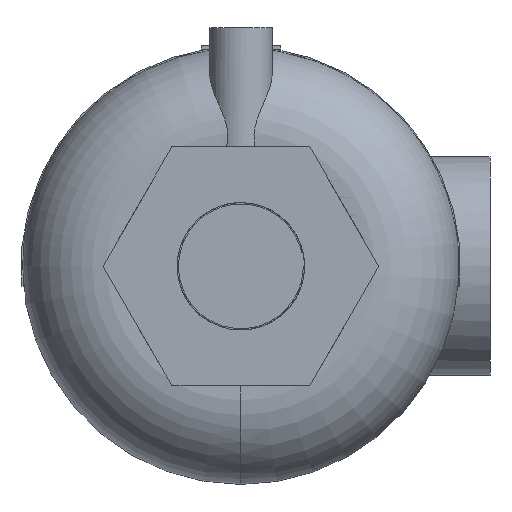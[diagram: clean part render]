
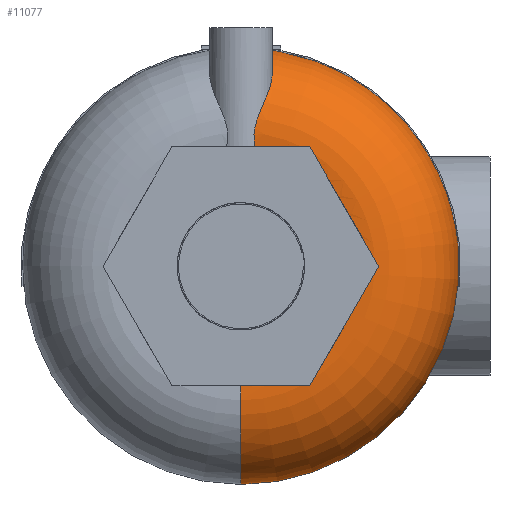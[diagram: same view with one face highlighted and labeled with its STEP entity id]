
A CAD part, front view. The second image highlights one B-rep face of the part: STEP entity #11077.
In plain terms, the highlighted toroidal (fillet/blend) face has major radius 41.696 mm and minor radius 27.94 mm.
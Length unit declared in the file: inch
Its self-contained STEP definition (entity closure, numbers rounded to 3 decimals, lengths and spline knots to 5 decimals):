
#215 = CARTESIAN_POINT ( 'NONE',  ( 0., 2.05, -1.5 ) ) ;
#357 = TOROIDAL_SURFACE ( 'NONE', #9999, 1.64157, 1.1 ) ;
#531 = DIRECTION ( 'NONE',  ( 0., -1., 0. ) ) ;
#667 = CARTESIAN_POINT ( 'NONE',  ( 0.35437, 2.57631, 2.56164 ) ) ;
#671 = DIRECTION ( 'NONE',  ( -1., 0., 0. ) ) ;
#689 = CARTESIAN_POINT ( 'NONE',  ( 0.32056, 2.16888, 2.13313 ) ) ;
#806 = EDGE_CURVE ( 'NONE', #9179, #14597, #4624, .T. ) ;
#1005 = ORIENTED_EDGE ( 'NONE', *, *, #5076, .T. ) ;
#1555 = DIRECTION ( 'NONE',  ( 0., -1., 0. ) ) ;
#1694 = CARTESIAN_POINT ( 'NONE',  ( 0.1831, 2.05, 1.48878 ) ) ;
#1800 = CARTESIAN_POINT ( 'NONE',  ( 0.33538, 2.60906, 2.58289 ) ) ;
#1981 = CARTESIAN_POINT ( 'NONE',  ( 0.37657, 2.27703, 2.29338 ) ) ;
#2025 = CIRCLE ( 'NONE', #13055, 1.1 ) ;
#2440 = CARTESIAN_POINT ( 'NONE',  ( 0.395, 2.4, 2.42269 ) ) ;
#2763 = CARTESIAN_POINT ( 'NONE',  ( 0., 3.3, -2.73 ) ) ;
#2929 = DIRECTION ( 'NONE',  ( 1., 0., 0. ) ) ;
#3101 = CARTESIAN_POINT ( 'NONE',  ( 0.32843, 2.61982, 2.58969 ) ) ;
#3261 = CARTESIAN_POINT ( 'NONE',  ( 0.0717, 2.7887, 2.68277 ) ) ;
#3364 = CARTESIAN_POINT ( 'NONE',  ( 0.249, 2.09258, 1.96201 ) ) ;
#3456 = CARTESIAN_POINT ( 'NONE',  ( 0.38727, 2.32079, 2.34327 ) ) ;
#3516 = CARTESIAN_POINT ( 'NONE',  ( 0.395, 2.4, 2.42269 ) ) ;
#4560 = CARTESIAN_POINT ( 'NONE',  ( 0.25895, 2.69858, 2.63613 ) ) ;
#4624 = B_SPLINE_CURVE_WITH_KNOTS ( 'NONE', 3,
 ( #7243, #12604, #8536, #13821, #3456, #1981, #7326, #9834, #12528, #8623, #689, #11207, #8707, #3364, #6035, #16570, #4739, #9998, #12680, #16411, #7049, #15081, #14833, #11176, #11011, #1694 ),
 .UNSPECIFIED., .F., .F.,
 ( 4, 2, 2, 2, 2, 2, 2, 2, 2, 2, 2, 2, 4 ),
 ( 0.09406, 0.09577, 0.09748, 0.10089, 0.1026, 0.10431, 0.10773, 0.11115, 0.11285, 0.11456, 0.11627, 0.11798, 0.1214 ),
 .UNSPECIFIED. ) ;
#4637 = CARTESIAN_POINT ( 'NONE',  ( 0.3803, 2.50937, 2.51408 ) ) ;
#4739 = CARTESIAN_POINT ( 'NONE',  ( 0.20261, 2.06083, 1.84035 ) ) ;
#5076 = EDGE_CURVE ( 'NONE', #17029, #9179, #10098, .T. ) ;
#5783 = ORIENTED_EDGE ( 'NONE', *, *, #16841, .T. ) ;
#5850 = CARTESIAN_POINT ( 'NONE',  ( 0.19195, 2.74639, 2.66171 ) ) ;
#5938 = CARTESIAN_POINT ( 'NONE',  ( 0.30538, 2.65088, 2.60869 ) ) ;
#6035 = CARTESIAN_POINT ( 'NONE',  ( 0.23259, 2.08023, 1.92249 ) ) ;
#6105 = CIRCLE ( 'NONE', #12727, 1.5 ) ;
#6435 = ORIENTED_EDGE ( 'NONE', *, *, #806, .T. ) ;
#6983 = ORIENTED_EDGE ( 'NONE', *, *, #13843, .F. ) ;
#7011 = CIRCLE ( 'NONE', #16927, 2.73 ) ;
#7017 = CARTESIAN_POINT ( 'NONE',  ( 0., 3.3, 0. ) ) ;
#7049 = CARTESIAN_POINT ( 'NONE',  ( 0.16989, 2.04339, 1.71114 ) ) ;
#7134 = CARTESIAN_POINT ( 'NONE',  ( 0.05739, 2.79108, 2.68391 ) ) ;
#7243 = CARTESIAN_POINT ( 'NONE',  ( 0.395, 2.4, 2.42269 ) ) ;
#7305 = CARTESIAN_POINT ( 'NONE',  ( 0.39334, 2.44255, 2.46073 ) ) ;
#7326 = CARTESIAN_POINT ( 'NONE',  ( 0.36653, 2.25024, 2.25916 ) ) ;
#7980 = CARTESIAN_POINT ( 'NONE',  ( 0., 3.3, 2.73 ) ) ;
#8536 = CARTESIAN_POINT ( 'NONE',  ( 0.39398, 2.36747, 2.3919 ) ) ;
#8583 = DIRECTION ( 'NONE',  ( 0., -1., 0. ) ) ;
#8585 = CARTESIAN_POINT ( 'NONE',  ( 0., 2.795, 2.68579 ) ) ;
#8623 = CARTESIAN_POINT ( 'NONE',  ( 0.32795, 2.17944, 2.15168 ) ) ;
#8707 = CARTESIAN_POINT ( 'NONE',  ( 0.28156, 2.1221, 2.03939 ) ) ;
#9179 = VERTEX_POINT ( 'NONE', #2440 ) ;
#9503 = EDGE_CURVE ( 'NONE', #16029, #11616, #7011, .T. ) ;
#9629 = CARTESIAN_POINT ( 'NONE',  ( 0.27877, 2.68017, 2.62577 ) ) ;
#9809 = CARTESIAN_POINT ( 'NONE',  ( 0.01432, 2.795, 2.68579 ) ) ;
#9834 = CARTESIAN_POINT ( 'NONE',  ( 0.34843, 2.21343, 2.20615 ) ) ;
#9850 = DIRECTION ( 'NONE',  ( 0., 0., -1. ) ) ;
#9882 = CARTESIAN_POINT ( 'NONE',  ( 0., 3.14085, 0. ) ) ;
#9890 = CARTESIAN_POINT ( 'NONE',  ( 0.38602, 2.48668, 2.4967 ) ) ;
#9998 = CARTESIAN_POINT ( 'NONE',  ( 0.18933, 2.05325, 1.79781 ) ) ;
#9999 = AXIS2_PLACEMENT_3D ( 'NONE', #9882, #8583, #16541 ) ;
#10098 = B_SPLINE_CURVE_WITH_KNOTS ( 'NONE', 3,
 ( #16391, #9809, #11265, #7134, #3261, #10942, #16214, #5850, #11107, #13891, #4560, #9629, #15090, #5938, #13800, #3101, #1800, #667, #11185, #4637, #9890, #7305, #12341, #3516 ),
 .UNSPECIFIED., .F., .F.,
 ( 4, 2, 2, 2, 2, 2, 2, 2, 2, 2, 2, 4 ),
 ( 0.0766, 0.07769, 0.07878, 0.08096, 0.08315, 0.08424, 0.08533, 0.08642, 0.08751, 0.08969, 0.09188, 0.09406 ),
 .UNSPECIFIED. ) ;
#10709 = CARTESIAN_POINT ( 'NONE',  ( 0., 2.05, 0. ) ) ;
#10892 = EDGE_CURVE ( 'NONE', #16029, #12687, #2025, .T. ) ;
#10942 = CARTESIAN_POINT ( 'NONE',  ( 0.11357, 2.7794, 2.67825 ) ) ;
#11011 = CARTESIAN_POINT ( 'NONE',  ( 0.17275, 2.04458, 1.5321 ) ) ;
#11014 = CARTESIAN_POINT ( 'NONE',  ( 0., 3.14085, 1.64157 ) ) ;
#11077 = ADVANCED_FACE ( 'NONE', ( #13791 ), #357, .T. ) ;
#11107 = CARTESIAN_POINT ( 'NONE',  ( 0.21571, 2.73202, 2.65428 ) ) ;
#11176 = CARTESIAN_POINT ( 'NONE',  ( 0.16561, 2.04139, 1.57617 ) ) ;
#11185 = CARTESIAN_POINT ( 'NONE',  ( 0.36447, 2.55411, 2.54648 ) ) ;
#11207 = CARTESIAN_POINT ( 'NONE',  ( 0.29775, 2.13925, 2.07722 ) ) ;
#11265 = CARTESIAN_POINT ( 'NONE',  ( 0.02866, 2.79422, 2.68542 ) ) ;
#11358 = ORIENTED_EDGE ( 'NONE', *, *, #10892, .F. ) ;
#11616 = VERTEX_POINT ( 'NONE', #7980 ) ;
#12341 = CARTESIAN_POINT ( 'NONE',  ( 0.395, 2.42099, 2.44207 ) ) ;
#12528 = CARTESIAN_POINT ( 'NONE',  ( 0.34188, 2.20172, 2.1882 ) ) ;
#12604 = CARTESIAN_POINT ( 'NONE',  ( 0.395, 2.38356, 2.40751 ) ) ;
#12680 = CARTESIAN_POINT ( 'NONE',  ( 0.18342, 2.05012, 1.77637 ) ) ;
#12687 = VERTEX_POINT ( 'NONE', #215 ) ;
#12727 = AXIS2_PLACEMENT_3D ( 'NONE', #10709, #1555, #13967 ) ;
#12951 = EDGE_LOOP ( 'NONE', ( #13730, #5783, #1005, #6435, #6983, #11358 ) ) ;
#13055 = AXIS2_PLACEMENT_3D ( 'NONE', #15958, #671, #15335 ) ;
#13151 = CARTESIAN_POINT ( 'NONE',  ( 0.1831, 2.05, 1.48878 ) ) ;
#13279 = CIRCLE ( 'NONE', #15464, 1.1 ) ;
#13730 = ORIENTED_EDGE ( 'NONE', *, *, #9503, .T. ) ;
#13791 = FACE_OUTER_BOUND ( 'NONE', #12951, .T. ) ;
#13800 = CARTESIAN_POINT ( 'NONE',  ( 0.31344, 2.64071, 2.60258 ) ) ;
#13821 = CARTESIAN_POINT ( 'NONE',  ( 0.39011, 2.33603, 2.35972 ) ) ;
#13843 = EDGE_CURVE ( 'NONE', #12687, #14597, #6105, .T. ) ;
#13891 = CARTESIAN_POINT ( 'NONE',  ( 0.24847, 2.70737, 2.64096 ) ) ;
#13967 = DIRECTION ( 'NONE',  ( 0., 0., -1. ) ) ;
#14597 = VERTEX_POINT ( 'NONE', #13151 ) ;
#14759 = DIRECTION ( 'NONE',  ( 0., 0., -1. ) ) ;
#14833 = CARTESIAN_POINT ( 'NONE',  ( 0.16404, 2.04067, 1.64423 ) ) ;
#15081 = CARTESIAN_POINT ( 'NONE',  ( 0.16506, 2.04113, 1.66677 ) ) ;
#15090 = CARTESIAN_POINT ( 'NONE',  ( 0.28804, 2.67061, 2.62029 ) ) ;
#15335 = DIRECTION ( 'NONE',  ( 0., 0., 1. ) ) ;
#15464 = AXIS2_PLACEMENT_3D ( 'NONE', #11014, #2929, #14759 ) ;
#15958 = CARTESIAN_POINT ( 'NONE',  ( 0., 3.14085, -1.64157 ) ) ;
#16029 = VERTEX_POINT ( 'NONE', #2763 ) ;
#16214 = CARTESIAN_POINT ( 'NONE',  ( 0.14041, 2.77029, 2.6738 ) ) ;
#16391 = CARTESIAN_POINT ( 'NONE',  ( 0., 2.795, 2.68579 ) ) ;
#16411 = CARTESIAN_POINT ( 'NONE',  ( 0.17369, 2.04519, 1.73303 ) ) ;
#16541 = DIRECTION ( 'NONE',  ( 0., 0., -1. ) ) ;
#16570 = CARTESIAN_POINT ( 'NONE',  ( 0.20986, 2.06524, 1.86114 ) ) ;
#16841 = EDGE_CURVE ( 'NONE', #11616, #17029, #13279, .T. ) ;
#16927 = AXIS2_PLACEMENT_3D ( 'NONE', #7017, #531, #9850 ) ;
#17029 = VERTEX_POINT ( 'NONE', #8585 ) ;
